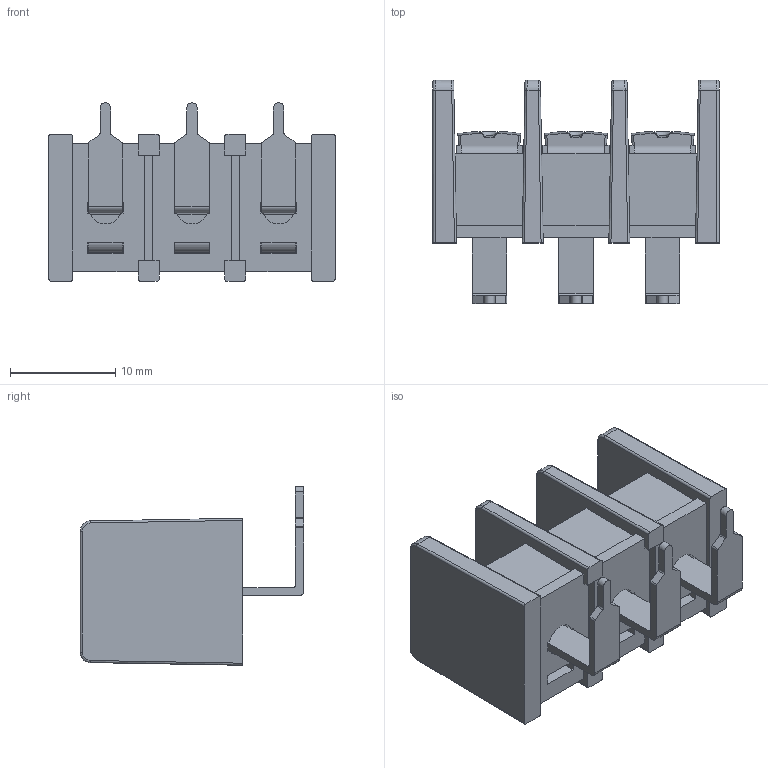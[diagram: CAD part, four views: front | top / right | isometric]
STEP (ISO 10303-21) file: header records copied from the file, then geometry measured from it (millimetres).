
FILE_DESCRIPTION((''),'2;1');
FILE_NAME('3PIN','2021-05-07T',('hanke'),(''),'CREO PARAMETRIC BY PTC INC, 2016260','CREO PARAMETRIC BY PTC INC, 2016260','');
FILE_SCHEMA(('CONFIG_CONTROL_DESIGN'));
Length unit declared in the file: millimetre
Products named in the file (1): 3PIN
Bounding box: 27.25 x 21.3 x 17 mm (x, y, z)
Volume: 2767.3 mm3; surface area: 4705.6 mm2
Topology: 1 solids, 1 shells, 948 faces, 2929 edges, 1916 vertices
Faces by surface type: plane 624, cylinder 176, torus 70, bspline 48, sphere 24, cone 6
Entity records: 41077 total; most frequent: CARTESIAN_POINT 15397, ORIENTED_EDGE 5858, DIRECTION 4861, EDGE_CURVE 2929, VERTEX_POINT 1916, VECTOR 1841, LINE 1841, AXIS2_PLACEMENT_3D 1510
